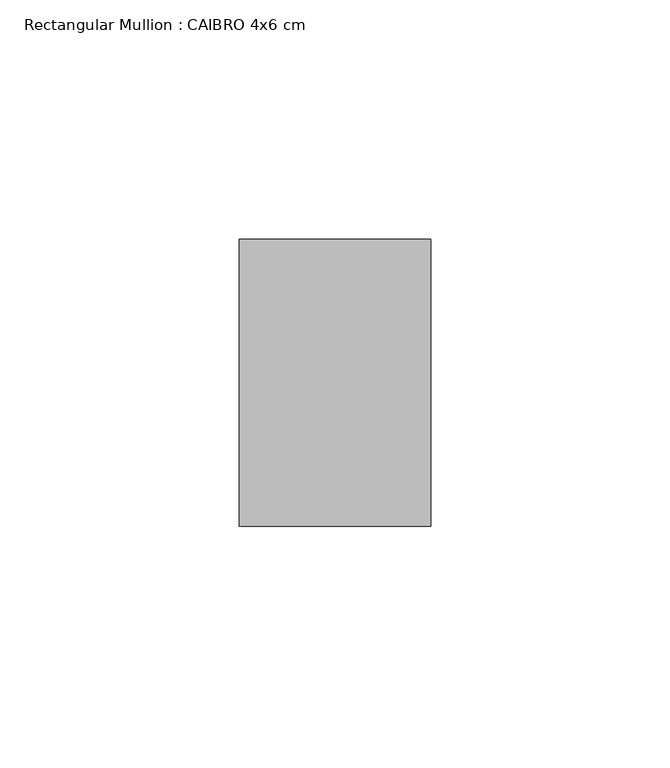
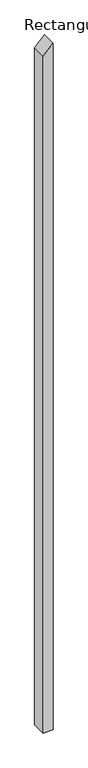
"""IFC4 building model written with IfcOpenShell, lengths in millimetres: member geometry, Rectangular Mullion : CAIBRO 4x6 cm."""

from ifc_helpers import new_model, si_unit, frame, origin, place, context, project, spatial, polyline, outline, extrude, source, transform, mapped, element, save


def rectangular_mullion_caibro_4x6_cm_d93b65a1(model_context):
    return source(origin(), model_context, "Body", "SweptSolid", [
        extrude(outline(polyline([(-36.6621022, 20.0), (-77.109599, -20.0), (-2990.3694969, -20.0), (-2990.3694969, 20.0), (-36.6621022, 20.0)])), frame((0.0, 0.0, 0.0), z_axis=(0.0, 1.0, 0.0), x_axis=(0.0, 0.0, 1.0)), (0.0, 0.0, 1.0), 60.0),
    ])


if __name__ == "__main__":
    model = new_model("IFC4")
    model_context = context("Model", 3, world=origin())
    ifc_project = project(units=[si_unit("LENGTHUNIT", "METRE", prefix="MILLI")], contexts=[model_context])
    site = spatial("IfcSite", under=ifc_project)
    building = spatial("IfcBuilding", under=site)
    placement = place(None, origin())
    rectangular_mullion_caibro_4x6_cm_shape = rectangular_mullion_caibro_4x6_cm_d93b65a1(model_context)
    element("IfcMember", 1, ObjectType="Rectangular Mullion : CAIBRO 4x6 cm", at=placement, inside=building, context=model_context, shape_type="MappedRepresentation", body=[
        mapped(rectangular_mullion_caibro_4x6_cm_shape, transform((0.0, 0.0, 0.0), x_axis=(1.0, 0.0, 0.0), y_axis=(0.0, 1.0, 0.0), z_axis=(0.0, 0.0, 1.0))),
    ])
    save(model, "model.ifc")
